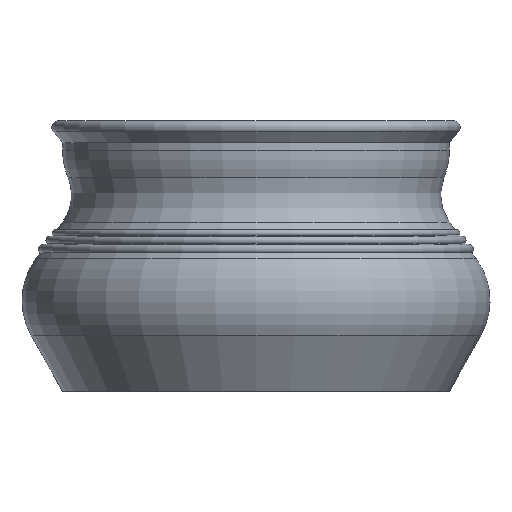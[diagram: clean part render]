
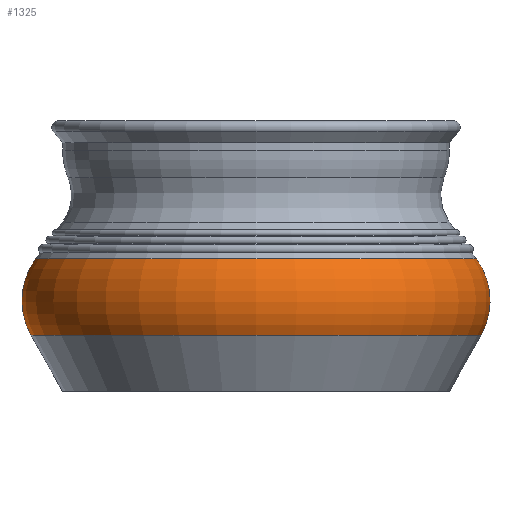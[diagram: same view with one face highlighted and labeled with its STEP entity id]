
A CAD part, front view. The second image highlights one B-rep face of the part: STEP entity #1325.
In plain terms, the highlighted toroidal (fillet/blend) face has major radius 120.641 mm and minor radius 52.359 mm.
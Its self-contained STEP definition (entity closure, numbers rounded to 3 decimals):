
#22=TOROIDAL_SURFACE('',#1505,120.641,52.359);
#166=FACE_OUTER_BOUND('',#284,.T.);
#284=EDGE_LOOP('',(#1208,#1209,#1210,#1211));
#526=CIRCLE('',#1467,166.263);
#549=CIRCLE('',#1506,162.836);
#550=CIRCLE('',#1507,52.359);
#653=VERTEX_POINT('',#2240);
#669=VERTEX_POINT('',#2303);
#818=EDGE_CURVE('',#653,#653,#526,.T.);
#849=EDGE_CURVE('',#669,#669,#549,.T.);
#850=EDGE_CURVE('',#669,#653,#550,.T.);
#1208=ORIENTED_EDGE('',*,*,#849,.F.);
#1209=ORIENTED_EDGE('',*,*,#850,.T.);
#1210=ORIENTED_EDGE('',*,*,#818,.T.);
#1211=ORIENTED_EDGE('',*,*,#850,.F.);
#1325=ADVANCED_FACE('',(#166),#22,.T.);
#1467=AXIS2_PLACEMENT_3D('',#2241,#1837,#1838);
#1505=AXIS2_PLACEMENT_3D('',#2302,#1921,#1922);
#1506=AXIS2_PLACEMENT_3D('',#2304,#1923,#1924);
#1507=AXIS2_PLACEMENT_3D('',#2305,#1925,#1926);
#1837=DIRECTION('center_axis',(0.,0.,1.));
#1838=DIRECTION('ref_axis',(1.,0.,0.));
#1921=DIRECTION('center_axis',(0.,0.,1.));
#1922=DIRECTION('ref_axis',(1.,0.,0.));
#1923=DIRECTION('center_axis',(0.,0.,1.));
#1924=DIRECTION('ref_axis',(1.,0.,0.));
#1925=DIRECTION('center_axis',(0.,-1.,0.));
#1926=DIRECTION('ref_axis',(-1.,0.,0.));
#2240=CARTESIAN_POINT('',(-166.263,0.,41.308));
#2241=CARTESIAN_POINT('Origin',(0.,0.,41.308));
#2302=CARTESIAN_POINT('Origin',(0.,0.,67.));
#2303=CARTESIAN_POINT('',(-162.836,0.,98.));
#2304=CARTESIAN_POINT('Origin',(0.,0.,98.));
#2305=CARTESIAN_POINT('Origin',(-120.641,0.,
67.));
